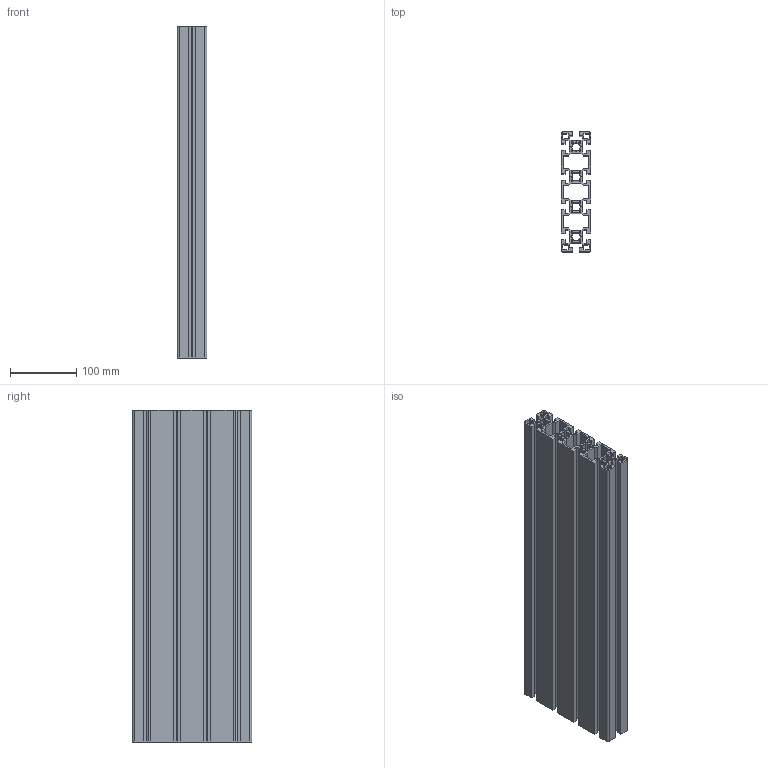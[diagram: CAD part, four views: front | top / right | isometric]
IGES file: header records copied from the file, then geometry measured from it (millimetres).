
Start section: SolidWorks IGES file using analytic representation for surfaces
Global section: file name: C:\Documents and Settings\Administrator\デスクトップ\指定保存後4回目\SolidWorks\SF\SF40・45\Frame\SFF-4184.IGS; native system: SolidWorks 2006 by SolidWorks Corporation; preprocessor: SolidWorks 2006 by SolidWorks Corporation; author: Administrator; date: 061218.105044; units: millimetre
Bounding box: 45 x 180 x 500 mm (x, y, z)
Volume: 1323825.7 mm3; surface area: 827348.6 mm2
Topology: 1 solids, 1 shells, 382 faces, 1140 edges, 760 vertices
Faces by surface type: plane 220, revolution 162
